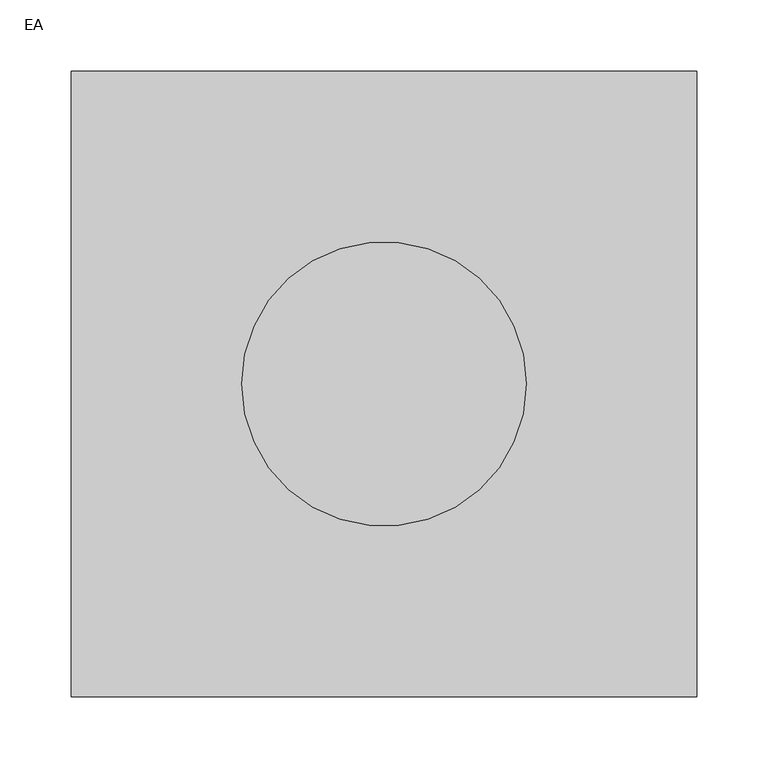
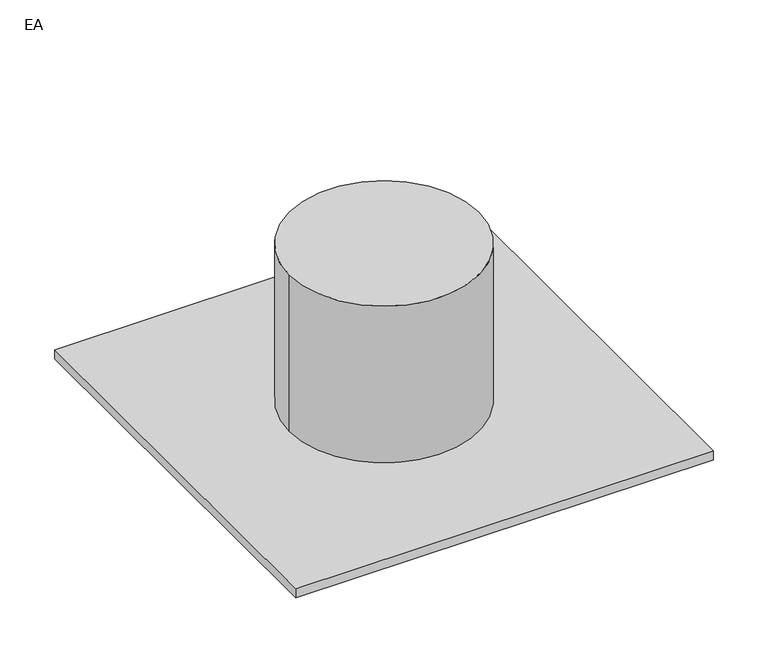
"""IFC4 building model written with IfcOpenShell, lengths in millimetres: air terminal geometry, 031_シーリングディフューザー : EA."""

from ifc_helpers import new_model, si_unit, point, frame, origin, origin_with_axes, origin_2d, place, context, project, spatial, polyline, circle_curve, trimmed, segment, composite_curve, outline, extrude, source, transform, mapped, element, save


def ea_47c06931(model_context):
    return source(origin(), model_context, "Body", "SweptSolid", [
        extrude(outline(polyline([(220.0, 220.0), (220.0, -220.0), (-220.0, -220.0), (-220.0, 220.0), (220.0, 220.0)])), frame((0.0, 0.0, -10.0), z_axis=(0.0, 0.0, 1.0), x_axis=(1.0, 0.0, 0.0)), (0.0, 0.0, 1.0), 10.0),
        extrude(outline(composite_curve([segment(trimmed(circle_curve(origin_2d(), 100.0), [point((-100.0, 0.0))], [point((100.0, 0.0))], False, "CARTESIAN"), True, "CONTINUOUS"), segment(trimmed(circle_curve(origin_2d(), 100.0), [point((100.0, 0.0))], [point((-100.0, 0.0))], False, "CARTESIAN"), True, "CONTINUOUS")], self_intersect=False)), origin_with_axes(), (0.0, 0.0, 1.0), 175.0),
    ])


if __name__ == "__main__":
    model = new_model("IFC4")
    model_context = context("Model", 3, world=origin())
    ifc_project = project(units=[si_unit("LENGTHUNIT", "METRE", prefix="MILLI")], contexts=[model_context])
    site = spatial("IfcSite", under=ifc_project)
    building = spatial("IfcBuilding", under=site)
    placement = place(None, origin())
    ea_shape = ea_47c06931(model_context)
    element("IfcAirTerminal", 1, ObjectType="031_シーリングディフューザー : EA", at=placement, inside=building, context=model_context, shape_type="MappedRepresentation", body=[
        mapped(ea_shape, transform((0.0, 0.0, 0.0), x_axis=(1.0, 0.0, 0.0), y_axis=(0.0, 1.0, 0.0), z_axis=(0.0, 0.0, 1.0))),
    ])
    save(model, "model.ifc")
